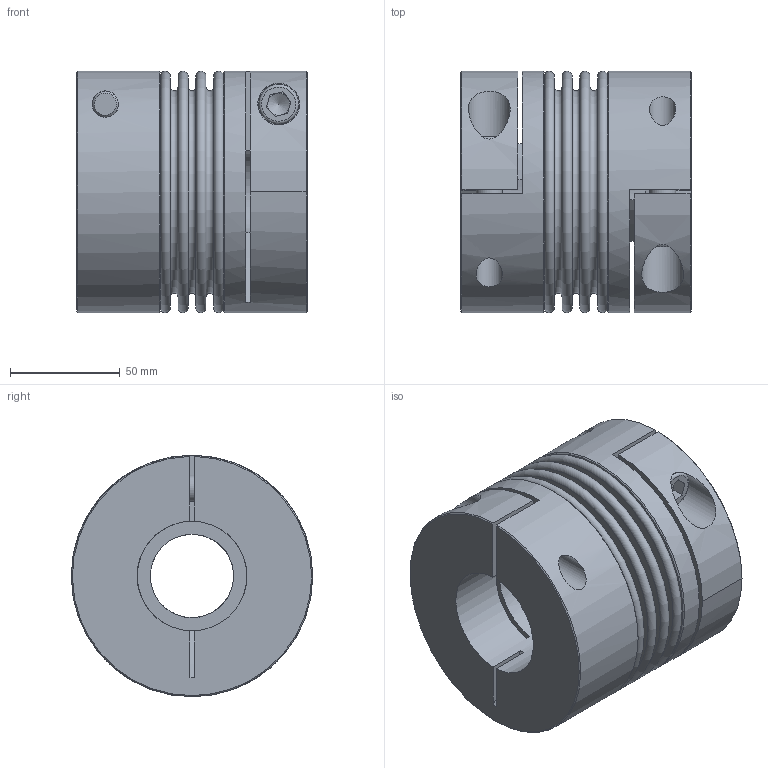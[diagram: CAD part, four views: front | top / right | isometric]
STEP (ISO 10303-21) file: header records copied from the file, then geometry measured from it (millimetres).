
FILE_DESCRIPTION( ( 'Unknown' ), '1' );
FILE_NAME( 'K:/Konstruktion/Homepage/KB4AL/KB4AL-300-105.stp', 'Unknown', ( 'Unknown' ), ( 'Unknown' ), 'PSStep 16.0.42', 'Unknown', ' ' );
FILE_SCHEMA( ( 'AUTOMOTIVE_DESIGN { 1 0 10303 214 1 1 1 1 }' ) );
Length unit declared in the file: millimetre
Products named in the file (5): Assem1; BK300_Standard_0; Socket Head Cap Screw_DIN_DIN 912 M12 x 35 --- 35N_2; KN300_Standard_1 - D38; KN300_Standard_1 - D50
Assembly tree (5 placements, depth 2):
  Assem1
    BK300_Standard_0
    Socket Head Cap Screw_DIN_DIN 912 M12 x 35 --- 35N_2  x2
    KN300_Standard_1 - D38
    KN300_Standard_1 - D50
Bounding box: 104.95 x 110 x 110 mm (x, y, z)
Volume: 591499.6 mm3; surface area: 157227.2 mm2
Topology: 5 solids, 5 shells, 116 faces, 246 edges, 158 vertices
Faces by surface type: plane 66, cylinder 24, torus 18, cone 8
Full cylindrical faces by diameter (mm): 12 x4, 12.5 x2, 18 x2, 19 x2, 38 x1, 50 x1, 99.8 x2, 101 x2, 110 x2
Entity records: 3504 total; most frequent: CARTESIAN_POINT 748, DIRECTION 426, ORIENTED_EDGE 302, AXIS2_PLACEMENT_3D 186, EDGE_LOOP 160, EDGE_CURVE 151, VERTEX_POINT 128, FACE_OUTER_BOUND 125
